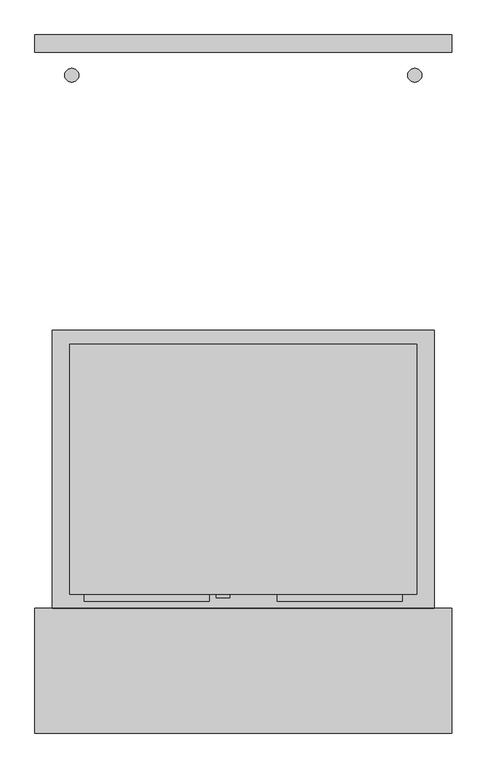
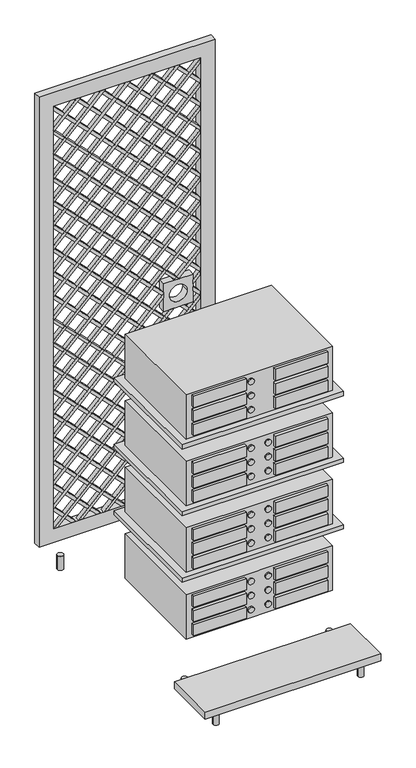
"""IFC4 building model written with IfcOpenShell, lengths in millimetres: furniture geometry, BIMHealth-Data_Acquisition_Cabinet_MRI-LOD2A-v1 : BIMHealth-Data_Acquisition_Cabinet_MRI-LOD2A-v1."""

from ifc_helpers import new_model, si_unit, point, frame, frame_2d, origin, origin_with_axes, place, context, project, spatial, polyline, circle_curve, trimmed, segment, composite_curve, outline, extrude, source, transform, mapped, element, save


def furniture_0908996f(model_context):
    return source(origin(), model_context, "Body", "SweptSolid", [
        extrude(outline(composite_curve([segment(trimmed(circle_curve(frame_2d((1052.3398364, -29.2292543)), 10.0), [point((1052.3398364, -39.2292543))], [point((1052.3398364, -19.2292543))], False, "CARTESIAN"), True, "CONTINUOUS"), segment(trimmed(circle_curve(frame_2d((1052.3398364, -29.2292543)), 10.0), [point((1052.3398364, -19.2292543))], [point((1052.3398364, -39.2292543))], False, "CARTESIAN"), True, "CONTINUOUS")], self_intersect=False)), frame((0.0, -385.0, 0.0), z_axis=(0.0, 1.0, 0.0), x_axis=(0.0, 0.0, 1.0)), (0.0, 0.0, 1.0), 5.0),
        extrude(outline(composite_curve([segment(trimmed(circle_curve(frame_2d((1001.3182848, -29.2292543)), 10.0), [point((1001.3182848, -39.2292543))], [point((1001.3182848, -19.2292543))], False, "CARTESIAN"), True, "CONTINUOUS"), segment(trimmed(circle_curve(frame_2d((1001.3182848, -29.2292543)), 10.0), [point((1001.3182848, -19.2292543))], [point((1001.3182848, -39.2292543))], False, "CARTESIAN"), True, "CONTINUOUS")], self_intersect=False)), frame((0.0, -385.0, 0.0), z_axis=(0.0, 1.0, 0.0), x_axis=(0.0, 0.0, 1.0)), (0.0, 0.0, 1.0), 5.0),
        extrude(outline(composite_curve([segment(trimmed(circle_curve(frame_2d((950.2967331, -29.2292543)), 10.0), [point((950.2967331, -39.2292543))], [point((950.2967331, -19.2292543))], False, "CARTESIAN"), True, "CONTINUOUS"), segment(trimmed(circle_curve(frame_2d((950.2967331, -29.2292543)), 10.0), [point((950.2967331, -19.2292543))], [point((950.2967331, -39.2292543))], False, "CARTESIAN"), True, "CONTINUOUS")], self_intersect=False)), frame((0.0, -385.0, 0.0), z_axis=(0.0, 1.0, 0.0), x_axis=(0.0, 0.0, 1.0)), (0.0, 0.0, 1.0), 5.0),
        extrude(outline(polyline([(-49.2292543, -390.0), (-229.2292543, -390.0), (-229.2292543, -380.0), (-49.2292543, -380.0), (-49.2292543, -390.0)])), frame((0.0, 0.0, 1032.3398364), z_axis=(0.0, 0.0, 1.0), x_axis=(1.0, 0.0, 0.0)), (0.0, 0.0, 1.0), 40.0),
        extrude(outline(polyline([(-49.2292543, -390.0), (-229.2292543, -390.0), (-229.2292543, -380.0), (-49.2292543, -380.0), (-49.2292543, -390.0)])), frame((0.0, 0.0, 981.3182848), z_axis=(0.0, 0.0, 1.0), x_axis=(1.0, 0.0, 0.0)), (0.0, 0.0, 1.0), 40.0),
        extrude(outline(polyline([(-49.2292543, -390.0), (-229.2292543, -390.0), (-229.2292543, -380.0), (-49.2292543, -380.0), (-49.2292543, -390.0)])), frame((0.0, 0.0, 930.2967331), z_axis=(0.0, 0.0, 1.0), x_axis=(1.0, 0.0, 0.0)), (0.0, 0.0, 1.0), 40.0),
        extrude(outline(polyline([(229.2292543, -390.0), (49.2292543, -390.0), (49.2292543, -380.0), (229.2292543, -380.0), (229.2292543, -390.0)])), frame((0.0, 0.0, 1032.3398364), z_axis=(0.0, 0.0, 1.0), x_axis=(1.0, 0.0, 0.0)), (0.0, 0.0, 1.0), 40.0),
        extrude(outline(polyline([(229.2292543, -390.0), (49.2292543, -390.0), (49.2292543, -380.0), (229.2292543, -380.0), (229.2292543, -390.0)])), frame((0.0, 0.0, 981.3182848), z_axis=(0.0, 0.0, 1.0), x_axis=(1.0, 0.0, 0.0)), (0.0, 0.0, 1.0), 40.0),
        extrude(outline(polyline([(229.2292543, -390.0), (49.2292543, -390.0), (49.2292543, -380.0), (229.2292543, -380.0), (229.2292543, -390.0)])), frame((0.0, 0.0, 930.2967331), z_axis=(0.0, 0.0, 1.0), x_axis=(1.0, 0.0, 0.0)), (0.0, 0.0, 1.0), 40.0),
        extrude(outline(polyline([(250.0, -20.0), (250.0, -380.0), (-250.0, -380.0), (-250.0, -20.0), (250.0, -20.0)])), frame((0.0, 0.0, 920.0), z_axis=(0.0, 0.0, 1.0), x_axis=(1.0, 0.0, 0.0)), (0.0, 0.0, 1.0), 160.0),
        extrude(outline(polyline([(275.0, 0.0), (275.0, -400.0), (-275.0, -400.0), (-275.0, 0.0), (275.0, 0.0)])), frame((0.0, 0.0, 905.0), z_axis=(0.0, 0.0, 1.0), x_axis=(1.0, 0.0, 0.0)), (0.0, 0.0, 1.0), 15.0),
        extrude(outline(composite_curve([segment(trimmed(circle_curve(frame_2d((812.3398364, 29.2292543)), 10.0), [point((812.3398364, 39.2292543))], [point((812.3398364, 19.2292543))], False, "CARTESIAN"), True, "CONTINUOUS"), segment(trimmed(circle_curve(frame_2d((812.3398364, 29.2292543)), 10.0), [point((812.3398364, 19.2292543))], [point((812.3398364, 39.2292543))], False, "CARTESIAN"), True, "CONTINUOUS")], self_intersect=False)), frame((0.0, -385.0, 0.0), z_axis=(0.0, 1.0, 0.0), x_axis=(0.0, 0.0, 1.0)), (0.0, 0.0, 1.0), 5.0),
        extrude(outline(composite_curve([segment(trimmed(circle_curve(frame_2d((761.3182848, 29.2292543)), 10.0), [point((761.3182848, 39.2292543))], [point((761.3182848, 19.2292543))], False, "CARTESIAN"), True, "CONTINUOUS"), segment(trimmed(circle_curve(frame_2d((761.3182848, 29.2292543)), 10.0), [point((761.3182848, 19.2292543))], [point((761.3182848, 39.2292543))], False, "CARTESIAN"), True, "CONTINUOUS")], self_intersect=False)), frame((0.0, -385.0, 0.0), z_axis=(0.0, 1.0, 0.0), x_axis=(0.0, 0.0, 1.0)), (0.0, 0.0, 1.0), 5.0),
        extrude(outline(composite_curve([segment(trimmed(circle_curve(frame_2d((710.2967331, 29.2292543)), 10.0), [point((710.2967331, 39.2292543))], [point((710.2967331, 19.2292543))], False, "CARTESIAN"), True, "CONTINUOUS"), segment(trimmed(circle_curve(frame_2d((710.2967331, 29.2292543)), 10.0), [point((710.2967331, 19.2292543))], [point((710.2967331, 39.2292543))], False, "CARTESIAN"), True, "CONTINUOUS")], self_intersect=False)), frame((0.0, -385.0, 0.0), z_axis=(0.0, 1.0, 0.0), x_axis=(0.0, 0.0, 1.0)), (0.0, 0.0, 1.0), 5.0),
        extrude(outline(composite_curve([segment(trimmed(circle_curve(frame_2d((812.3398364, -29.2292543)), 10.0), [point((812.3398364, -39.2292543))], [point((812.3398364, -19.2292543))], False, "CARTESIAN"), True, "CONTINUOUS"), segment(trimmed(circle_curve(frame_2d((812.3398364, -29.2292543)), 10.0), [point((812.3398364, -19.2292543))], [point((812.3398364, -39.2292543))], False, "CARTESIAN"), True, "CONTINUOUS")], self_intersect=False)), frame((0.0, -385.0, 0.0), z_axis=(0.0, 1.0, 0.0), x_axis=(0.0, 0.0, 1.0)), (0.0, 0.0, 1.0), 5.0),
        extrude(outline(composite_curve([segment(trimmed(circle_curve(frame_2d((761.3182848, -29.2292543)), 10.0), [point((761.3182848, -39.2292543))], [point((761.3182848, -19.2292543))], False, "CARTESIAN"), True, "CONTINUOUS"), segment(trimmed(circle_curve(frame_2d((761.3182848, -29.2292543)), 10.0), [point((761.3182848, -19.2292543))], [point((761.3182848, -39.2292543))], False, "CARTESIAN"), True, "CONTINUOUS")], self_intersect=False)), frame((0.0, -385.0, 0.0), z_axis=(0.0, 1.0, 0.0), x_axis=(0.0, 0.0, 1.0)), (0.0, 0.0, 1.0), 5.0),
        extrude(outline(composite_curve([segment(trimmed(circle_curve(frame_2d((710.2967331, -29.2292543)), 10.0), [point((710.2967331, -39.2292543))], [point((710.2967331, -19.2292543))], False, "CARTESIAN"), True, "CONTINUOUS"), segment(trimmed(circle_curve(frame_2d((710.2967331, -29.2292543)), 10.0), [point((710.2967331, -19.2292543))], [point((710.2967331, -39.2292543))], False, "CARTESIAN"), True, "CONTINUOUS")], self_intersect=False)), frame((0.0, -385.0, 0.0), z_axis=(0.0, 1.0, 0.0), x_axis=(0.0, 0.0, 1.0)), (0.0, 0.0, 1.0), 5.0),
        extrude(outline(polyline([(-49.2292543, -390.0), (-229.2292543, -390.0), (-229.2292543, -380.0), (-49.2292543, -380.0), (-49.2292543, -390.0)])), frame((0.0, 0.0, 792.3398364), z_axis=(0.0, 0.0, 1.0), x_axis=(1.0, 0.0, 0.0)), (0.0, 0.0, 1.0), 40.0),
        extrude(outline(polyline([(-49.2292543, -390.0), (-229.2292543, -390.0), (-229.2292543, -380.0), (-49.2292543, -380.0), (-49.2292543, -390.0)])), frame((0.0, 0.0, 741.3182848), z_axis=(0.0, 0.0, 1.0), x_axis=(1.0, 0.0, 0.0)), (0.0, 0.0, 1.0), 40.0),
        extrude(outline(polyline([(-49.2292543, -390.0), (-229.2292543, -390.0), (-229.2292543, -380.0), (-49.2292543, -380.0), (-49.2292543, -390.0)])), frame((0.0, 0.0, 690.2967331), z_axis=(0.0, 0.0, 1.0), x_axis=(1.0, 0.0, 0.0)), (0.0, 0.0, 1.0), 40.0),
        extrude(outline(polyline([(229.2292543, -390.0), (49.2292543, -390.0), (49.2292543, -380.0), (229.2292543, -380.0), (229.2292543, -390.0)])), frame((0.0, 0.0, 792.3398364), z_axis=(0.0, 0.0, 1.0), x_axis=(1.0, 0.0, 0.0)), (0.0, 0.0, 1.0), 40.0),
        extrude(outline(polyline([(229.2292543, -390.0), (49.2292543, -390.0), (49.2292543, -380.0), (229.2292543, -380.0), (229.2292543, -390.0)])), frame((0.0, 0.0, 741.3182848), z_axis=(0.0, 0.0, 1.0), x_axis=(1.0, 0.0, 0.0)), (0.0, 0.0, 1.0), 40.0),
        extrude(outline(polyline([(229.2292543, -390.0), (49.2292543, -390.0), (49.2292543, -380.0), (229.2292543, -380.0), (229.2292543, -390.0)])), frame((0.0, 0.0, 690.2967331), z_axis=(0.0, 0.0, 1.0), x_axis=(1.0, 0.0, 0.0)), (0.0, 0.0, 1.0), 40.0),
        extrude(outline(polyline([(250.0, -20.0), (250.0, -380.0), (-250.0, -380.0), (-250.0, -20.0), (250.0, -20.0)])), frame((0.0, 0.0, 680.0), z_axis=(0.0, 0.0, 1.0), x_axis=(1.0, 0.0, 0.0)), (0.0, 0.0, 1.0), 160.0),
        extrude(outline(polyline([(275.0, 0.0), (275.0, -400.0), (-275.0, -400.0), (-275.0, 0.0), (275.0, 0.0)])), frame((0.0, 0.0, 665.0), z_axis=(0.0, 0.0, 1.0), x_axis=(1.0, 0.0, 0.0)), (0.0, 0.0, 1.0), 15.0),
        extrude(outline(composite_curve([segment(trimmed(circle_curve(frame_2d((332.3398364, 29.2292543)), 10.0), [point((332.3398364, 39.2292543))], [point((332.3398364, 19.2292543))], False, "CARTESIAN"), True, "CONTINUOUS"), segment(trimmed(circle_curve(frame_2d((332.3398364, 29.2292543)), 10.0), [point((332.3398364, 19.2292543))], [point((332.3398364, 39.2292543))], False, "CARTESIAN"), True, "CONTINUOUS")], self_intersect=False)), frame((0.0, -385.0, 0.0), z_axis=(0.0, 1.0, 0.0), x_axis=(0.0, 0.0, 1.0)), (0.0, 0.0, 1.0), 5.0),
        extrude(outline(composite_curve([segment(trimmed(circle_curve(frame_2d((281.3182848, 29.2292543)), 10.0), [point((281.3182848, 39.2292543))], [point((281.3182848, 19.2292543))], False, "CARTESIAN"), True, "CONTINUOUS"), segment(trimmed(circle_curve(frame_2d((281.3182848, 29.2292543)), 10.0), [point((281.3182848, 19.2292543))], [point((281.3182848, 39.2292543))], False, "CARTESIAN"), True, "CONTINUOUS")], self_intersect=False)), frame((0.0, -385.0, 0.0), z_axis=(0.0, 1.0, 0.0), x_axis=(0.0, 0.0, 1.0)), (0.0, 0.0, 1.0), 5.0),
        extrude(outline(composite_curve([segment(trimmed(circle_curve(frame_2d((230.2967331, 29.2292543)), 10.0), [point((230.2967331, 39.2292543))], [point((230.2967331, 19.2292543))], False, "CARTESIAN"), True, "CONTINUOUS"), segment(trimmed(circle_curve(frame_2d((230.2967331, 29.2292543)), 10.0), [point((230.2967331, 19.2292543))], [point((230.2967331, 39.2292543))], False, "CARTESIAN"), True, "CONTINUOUS")], self_intersect=False)), frame((0.0, -385.0, 0.0), z_axis=(0.0, 1.0, 0.0), x_axis=(0.0, 0.0, 1.0)), (0.0, 0.0, 1.0), 5.0),
        extrude(outline(composite_curve([segment(trimmed(circle_curve(frame_2d((332.3398364, -29.2292543)), 10.0), [point((332.3398364, -39.2292543))], [point((332.3398364, -19.2292543))], False, "CARTESIAN"), True, "CONTINUOUS"), segment(trimmed(circle_curve(frame_2d((332.3398364, -29.2292543)), 10.0), [point((332.3398364, -19.2292543))], [point((332.3398364, -39.2292543))], False, "CARTESIAN"), True, "CONTINUOUS")], self_intersect=False)), frame((0.0, -385.0, 0.0), z_axis=(0.0, 1.0, 0.0), x_axis=(0.0, 0.0, 1.0)), (0.0, 0.0, 1.0), 5.0),
        extrude(outline(composite_curve([segment(trimmed(circle_curve(frame_2d((281.3182848, -29.2292543)), 10.0), [point((281.3182848, -39.2292543))], [point((281.3182848, -19.2292543))], False, "CARTESIAN"), True, "CONTINUOUS"), segment(trimmed(circle_curve(frame_2d((281.3182848, -29.2292543)), 10.0), [point((281.3182848, -19.2292543))], [point((281.3182848, -39.2292543))], False, "CARTESIAN"), True, "CONTINUOUS")], self_intersect=False)), frame((0.0, -385.0, 0.0), z_axis=(0.0, 1.0, 0.0), x_axis=(0.0, 0.0, 1.0)), (0.0, 0.0, 1.0), 5.0),
        extrude(outline(composite_curve([segment(trimmed(circle_curve(frame_2d((230.2967331, -29.2292543)), 10.0), [point((230.2967331, -39.2292543))], [point((230.2967331, -19.2292543))], False, "CARTESIAN"), True, "CONTINUOUS"), segment(trimmed(circle_curve(frame_2d((230.2967331, -29.2292543)), 10.0), [point((230.2967331, -19.2292543))], [point((230.2967331, -39.2292543))], False, "CARTESIAN"), True, "CONTINUOUS")], self_intersect=False)), frame((0.0, -385.0, 0.0), z_axis=(0.0, 1.0, 0.0), x_axis=(0.0, 0.0, 1.0)), (0.0, 0.0, 1.0), 5.0),
        extrude(outline(polyline([(-49.2292543, -390.0), (-229.2292543, -390.0), (-229.2292543, -380.0), (-49.2292543, -380.0), (-49.2292543, -390.0)])), frame((0.0, 0.0, 312.3398364), z_axis=(0.0, 0.0, 1.0), x_axis=(1.0, 0.0, 0.0)), (0.0, 0.0, 1.0), 40.0),
        extrude(outline(polyline([(-49.2292543, -390.0), (-229.2292543, -390.0), (-229.2292543, -380.0), (-49.2292543, -380.0), (-49.2292543, -390.0)])), frame((0.0, 0.0, 261.3182848), z_axis=(0.0, 0.0, 1.0), x_axis=(1.0, 0.0, 0.0)), (0.0, 0.0, 1.0), 40.0),
        extrude(outline(polyline([(-49.2292543, -390.0), (-229.2292543, -390.0), (-229.2292543, -380.0), (-49.2292543, -380.0), (-49.2292543, -390.0)])), frame((0.0, 0.0, 210.2967331), z_axis=(0.0, 0.0, 1.0), x_axis=(1.0, 0.0, 0.0)), (0.0, 0.0, 1.0), 40.0),
        extrude(outline(polyline([(229.2292543, -390.0), (49.2292543, -390.0), (49.2292543, -380.0), (229.2292543, -380.0), (229.2292543, -390.0)])), frame((0.0, 0.0, 312.3398364), z_axis=(0.0, 0.0, 1.0), x_axis=(1.0, 0.0, 0.0)), (0.0, 0.0, 1.0), 40.0),
        extrude(outline(polyline([(229.2292543, -390.0), (49.2292543, -390.0), (49.2292543, -380.0), (229.2292543, -380.0), (229.2292543, -390.0)])), frame((0.0, 0.0, 261.3182848), z_axis=(0.0, 0.0, 1.0), x_axis=(1.0, 0.0, 0.0)), (0.0, 0.0, 1.0), 40.0),
        extrude(outline(polyline([(229.2292543, -390.0), (49.2292543, -390.0), (49.2292543, -380.0), (229.2292543, -380.0), (229.2292543, -390.0)])), frame((0.0, 0.0, 210.2967331), z_axis=(0.0, 0.0, 1.0), x_axis=(1.0, 0.0, 0.0)), (0.0, 0.0, 1.0), 40.0),
        extrude(outline(polyline([(250.0, -20.0), (250.0, -380.0), (-250.0, -380.0), (-250.0, -20.0), (250.0, -20.0)])), frame((0.0, 0.0, 200.0), z_axis=(0.0, 0.0, 1.0), x_axis=(1.0, 0.0, 0.0)), (0.0, 0.0, 1.0), 160.0),
        extrude(outline(composite_curve([segment(trimmed(circle_curve(frame_2d((572.3398364, 29.2292543)), 10.0), [point((572.3398364, 39.2292543))], [point((572.3398364, 19.2292543))], False, "CARTESIAN"), True, "CONTINUOUS"), segment(trimmed(circle_curve(frame_2d((572.3398364, 29.2292543)), 10.0), [point((572.3398364, 19.2292543))], [point((572.3398364, 39.2292543))], False, "CARTESIAN"), True, "CONTINUOUS")], self_intersect=False)), frame((0.0, -385.0, 0.0), z_axis=(0.0, 1.0, 0.0), x_axis=(0.0, 0.0, 1.0)), (0.0, 0.0, 1.0), 5.0),
        extrude(outline(composite_curve([segment(trimmed(circle_curve(frame_2d((521.3182848, 29.2292543)), 10.0), [point((521.3182848, 39.2292543))], [point((521.3182848, 19.2292543))], False, "CARTESIAN"), True, "CONTINUOUS"), segment(trimmed(circle_curve(frame_2d((521.3182848, 29.2292543)), 10.0), [point((521.3182848, 19.2292543))], [point((521.3182848, 39.2292543))], False, "CARTESIAN"), True, "CONTINUOUS")], self_intersect=False)), frame((0.0, -385.0, 0.0), z_axis=(0.0, 1.0, 0.0), x_axis=(0.0, 0.0, 1.0)), (0.0, 0.0, 1.0), 5.0),
        extrude(outline(composite_curve([segment(trimmed(circle_curve(frame_2d((470.2967331, 29.2292543)), 10.0), [point((470.2967331, 39.2292543))], [point((470.2967331, 19.2292543))], False, "CARTESIAN"), True, "CONTINUOUS"), segment(trimmed(circle_curve(frame_2d((470.2967331, 29.2292543)), 10.0), [point((470.2967331, 19.2292543))], [point((470.2967331, 39.2292543))], False, "CARTESIAN"), True, "CONTINUOUS")], self_intersect=False)), frame((0.0, -385.0, 0.0), z_axis=(0.0, 1.0, 0.0), x_axis=(0.0, 0.0, 1.0)), (0.0, 0.0, 1.0), 5.0),
        extrude(outline(composite_curve([segment(trimmed(circle_curve(frame_2d((572.3398364, -29.2292543)), 10.0), [point((572.3398364, -39.2292543))], [point((572.3398364, -19.2292543))], False, "CARTESIAN"), True, "CONTINUOUS"), segment(trimmed(circle_curve(frame_2d((572.3398364, -29.2292543)), 10.0), [point((572.3398364, -19.2292543))], [point((572.3398364, -39.2292543))], False, "CARTESIAN"), True, "CONTINUOUS")], self_intersect=False)), frame((0.0, -385.0, 0.0), z_axis=(0.0, 1.0, 0.0), x_axis=(0.0, 0.0, 1.0)), (0.0, 0.0, 1.0), 5.0),
        extrude(outline(composite_curve([segment(trimmed(circle_curve(frame_2d((521.3182848, -29.2292543)), 10.0), [point((521.3182848, -39.2292543))], [point((521.3182848, -19.2292543))], False, "CARTESIAN"), True, "CONTINUOUS"), segment(trimmed(circle_curve(frame_2d((521.3182848, -29.2292543)), 10.0), [point((521.3182848, -19.2292543))], [point((521.3182848, -39.2292543))], False, "CARTESIAN"), True, "CONTINUOUS")], self_intersect=False)), frame((0.0, -385.0, 0.0), z_axis=(0.0, 1.0, 0.0), x_axis=(0.0, 0.0, 1.0)), (0.0, 0.0, 1.0), 5.0),
        extrude(outline(composite_curve([segment(trimmed(circle_curve(frame_2d((470.2967331, -29.2292543)), 10.0), [point((470.2967331, -39.2292543))], [point((470.2967331, -19.2292543))], False, "CARTESIAN"), True, "CONTINUOUS"), segment(trimmed(circle_curve(frame_2d((470.2967331, -29.2292543)), 10.0), [point((470.2967331, -19.2292543))], [point((470.2967331, -39.2292543))], False, "CARTESIAN"), True, "CONTINUOUS")], self_intersect=False)), frame((0.0, -385.0, 0.0), z_axis=(0.0, 1.0, 0.0), x_axis=(0.0, 0.0, 1.0)), (0.0, 0.0, 1.0), 5.0),
        extrude(outline(polyline([(-49.2292543, -390.0), (-229.2292543, -390.0), (-229.2292543, -380.0), (-49.2292543, -380.0), (-49.2292543, -390.0)])), frame((0.0, 0.0, 552.3398364), z_axis=(0.0, 0.0, 1.0), x_axis=(1.0, 0.0, 0.0)), (0.0, 0.0, 1.0), 40.0),
        extrude(outline(polyline([(-49.2292543, -390.0), (-229.2292543, -390.0), (-229.2292543, -380.0), (-49.2292543, -380.0), (-49.2292543, -390.0)])), frame((0.0, 0.0, 501.3182848), z_axis=(0.0, 0.0, 1.0), x_axis=(1.0, 0.0, 0.0)), (0.0, 0.0, 1.0), 40.0),
        extrude(outline(polyline([(-49.2292543, -390.0), (-229.2292543, -390.0), (-229.2292543, -380.0), (-49.2292543, -380.0), (-49.2292543, -390.0)])), frame((0.0, 0.0, 450.2967331), z_axis=(0.0, 0.0, 1.0), x_axis=(1.0, 0.0, 0.0)), (0.0, 0.0, 1.0), 40.0),
        extrude(outline(polyline([(229.2292543, -390.0), (49.2292543, -390.0), (49.2292543, -380.0), (229.2292543, -380.0), (229.2292543, -390.0)])), frame((0.0, 0.0, 552.3398364), z_axis=(0.0, 0.0, 1.0), x_axis=(1.0, 0.0, 0.0)), (0.0, 0.0, 1.0), 40.0),
        extrude(outline(polyline([(229.2292543, -390.0), (49.2292543, -390.0), (49.2292543, -380.0), (229.2292543, -380.0), (229.2292543, -390.0)])), frame((0.0, 0.0, 501.3182848), z_axis=(0.0, 0.0, 1.0), x_axis=(1.0, 0.0, 0.0)), (0.0, 0.0, 1.0), 40.0),
        extrude(outline(polyline([(229.2292543, -390.0), (49.2292543, -390.0), (49.2292543, -380.0), (229.2292543, -380.0), (229.2292543, -390.0)])), frame((0.0, 0.0, 450.2967331), z_axis=(0.0, 0.0, 1.0), x_axis=(1.0, 0.0, 0.0)), (0.0, 0.0, 1.0), 40.0),
        extrude(outline(polyline([(250.0, -20.0), (250.0, -380.0), (-250.0, -380.0), (-250.0, -20.0), (250.0, -20.0)])), frame((0.0, 0.0, 440.0), z_axis=(0.0, 0.0, 1.0), x_axis=(1.0, 0.0, 0.0)), (0.0, 0.0, 1.0), 160.0),
        extrude(outline(polyline([(275.0, 0.0), (275.0, -400.0), (-275.0, -400.0), (-275.0, 0.0), (275.0, 0.0)])), frame((0.0, 0.0, 425.0), z_axis=(0.0, 0.0, 1.0), x_axis=(1.0, 0.0, 0.0)), (0.0, 0.0, 1.0), 15.0),
        extrude(outline(composite_curve([segment(trimmed(circle_curve(frame_2d((246.9400805, -552.1873)), 10.0), [point((256.9400805, -552.1873))], [point((236.9400805, -552.1873))], False, "CARTESIAN"), True, "CONTINUOUS"), segment(trimmed(circle_curve(frame_2d((246.9400805, -552.1873)), 10.0), [point((236.9400805, -552.1873))], [point((256.9400805, -552.1873))], False, "CARTESIAN"), True, "CONTINUOUS")], self_intersect=False)), origin_with_axes(), (0.0, 0.0, 1.0), 50.0),
        extrude(outline(composite_curve([segment(trimmed(circle_curve(frame_2d((-246.9400805, -552.1873)), 10.0), [point((-256.9400805, -552.1873))], [point((-236.9400805, -552.1873))], False, "CARTESIAN"), True, "CONTINUOUS"), segment(trimmed(circle_curve(frame_2d((-246.9400805, -552.1873)), 10.0), [point((-236.9400805, -552.1873))], [point((-256.9400805, -552.1873))], False, "CARTESIAN"), True, "CONTINUOUS")], self_intersect=False)), origin_with_axes(), (0.0, 0.0, 1.0), 50.0),
        extrude(outline(polyline([(-300.0, -580.0), (-300.0, -400.0), (300.0, -400.0), (300.0, -580.0), (-300.0, -580.0)])), frame((0.0, 0.0, 50.0), z_axis=(0.0, 0.0, 1.0), x_axis=(1.0, 0.0, 0.0)), (0.0, 0.0, 1.0), 25.0),
        extrude(outline(composite_curve([segment(trimmed(circle_curve(frame_2d((246.9400805, -367.1873)), 10.0), [point((256.9400805, -367.1873))], [point((236.9400805, -367.1873))], False, "CARTESIAN"), True, "CONTINUOUS"), segment(trimmed(circle_curve(frame_2d((246.9400805, -367.1873)), 10.0), [point((236.9400805, -367.1873))], [point((256.9400805, -367.1873))], False, "CARTESIAN"), True, "CONTINUOUS")], self_intersect=False)), origin_with_axes(), (0.0, 0.0, 1.0), 50.0),
        extrude(outline(composite_curve([segment(trimmed(circle_curve(frame_2d((-246.9400805, -367.1873)), 10.0), [point((-256.9400805, -367.1873))], [point((-236.9400805, -367.1873))], False, "CARTESIAN"), True, "CONTINUOUS"), segment(trimmed(circle_curve(frame_2d((-246.9400805, -367.1873)), 10.0), [point((-236.9400805, -367.1873))], [point((-256.9400805, -367.1873))], False, "CARTESIAN"), True, "CONTINUOUS")], self_intersect=False)), origin_with_axes(), (0.0, 0.0, 1.0), 50.0),
        extrude(outline(composite_curve([segment(trimmed(circle_curve(frame_2d((246.9400805, 367.1873)), 10.0), [point((256.9400805, 367.1873))], [point((236.9400805, 367.1873))], False, "CARTESIAN"), True, "CONTINUOUS"), segment(trimmed(circle_curve(frame_2d((246.9400805, 367.1873)), 10.0), [point((236.9400805, 367.1873))], [point((256.9400805, 367.1873))], False, "CARTESIAN"), True, "CONTINUOUS")], self_intersect=False)), origin_with_axes(), (0.0, 0.0, 1.0), 50.0),
        extrude(outline(composite_curve([segment(trimmed(circle_curve(frame_2d((-246.9400805, 367.1873)), 10.0), [point((-256.9400805, 367.1873))], [point((-236.9400805, 367.1873))], False, "CARTESIAN"), True, "CONTINUOUS"), segment(trimmed(circle_curve(frame_2d((-246.9400805, 367.1873)), 10.0), [point((-236.9400805, 367.1873))], [point((-256.9400805, 367.1873))], False, "CARTESIAN"), True, "CONTINUOUS")], self_intersect=False)), origin_with_axes(), (0.0, 0.0, 1.0), 50.0),
        extrude(outline(polyline([(625.0, 250.0), (125.0, -250.0), (125.0, -235.8578644), (610.8578644, 250.0), (625.0, 250.0)])), frame((0.0, 400.0, 0.0), z_axis=(0.0, 1.0, 0.0), x_axis=(0.0, 0.0, 1.0)), (0.0, 0.0, 1.0), 15.0),
        extrude(outline(polyline([(540.1471863, 250.0), (125.0, -165.1471863), (125.0, -151.0050506), (526.0050506, 250.0), (540.1471863, 250.0)])), frame((0.0, 400.0, 0.0), z_axis=(0.0, 1.0, 0.0), x_axis=(0.0, 0.0, 1.0)), (0.0, 0.0, 1.0), 15.0),
        extrude(outline(polyline([(455.2943725, 250.0), (125.0, -80.2943725), (125.0, -66.1522369), (441.1522369, 250.0), (455.2943725, 250.0)])), frame((0.0, 400.0, 0.0), z_axis=(0.0, 1.0, 0.0), x_axis=(0.0, 0.0, 1.0)), (0.0, 0.0, 1.0), 15.0),
        extrude(outline(polyline([(370.4415588, 250.0), (125.0, 4.5584412), (125.0, 18.7005769), (356.2994231, 250.0), (370.4415588, 250.0)])), frame((0.0, 400.0, 0.0), z_axis=(0.0, 1.0, 0.0), x_axis=(0.0, 0.0, 1.0)), (0.0, 0.0, 1.0), 15.0),
        extrude(outline(polyline([(285.588745, 250.0), (125.0, 89.411255), (125.0, 103.5533906), (271.4466094, 250.0), (285.588745, 250.0)])), frame((0.0, 400.0, 0.0), z_axis=(0.0, 1.0, 0.0), x_axis=(0.0, 0.0, 1.0)), (0.0, 0.0, 1.0), 15.0),
        extrude(outline(polyline([(200.7359313, 250.0), (125.0, 174.2640687), (125.0, 188.4062043), (186.5937957, 250.0), (200.7359313, 250.0)])), frame((0.0, 400.0, 0.0), z_axis=(0.0, 1.0, 0.0), x_axis=(0.0, 0.0, 1.0)), (0.0, 0.0, 1.0), 15.0),
        extrude(outline(polyline([(695.7106781, 250.0), (709.8528137, 250.0), (209.8528137, -250.0), (195.7106781, -250.0), (695.7106781, 250.0)])), frame((0.0, 400.0, 0.0), z_axis=(0.0, 1.0, 0.0), x_axis=(0.0, 0.0, 1.0)), (0.0, 0.0, 1.0), 15.0),
        extrude(outline(polyline([(1035.1219331, 250.0), (1049.2640687, 250.0), (549.2640687, -250.0), (535.1219331, -250.0), (1035.1219331, 250.0)])), frame((0.0, 400.0, 0.0), z_axis=(0.0, 1.0, 0.0), x_axis=(0.0, 0.0, 1.0)), (0.0, 0.0, 1.0), 15.0),
        extrude(outline(polyline([(1119.9747468, 250.0), (1134.1168825, 250.0), (634.1168825, -250.0), (619.9747468, -250.0), (1119.9747468, 250.0)])), frame((0.0, 400.0, 0.0), z_axis=(0.0, 1.0, 0.0), x_axis=(0.0, 0.0, 1.0)), (0.0, 0.0, 1.0), 15.0),
        extrude(outline(polyline([(1204.8275606, 250.0), (1218.9696962, 250.0), (718.9696962, -250.0), (704.8275606, -250.0), (1204.8275606, 250.0)])), frame((0.0, 400.0, 0.0), z_axis=(0.0, 1.0, 0.0), x_axis=(0.0, 0.0, 1.0)), (0.0, 0.0, 1.0), 15.0),
        extrude(outline(polyline([(1289.6803743, 250.0), (1303.8225099, 250.0), (803.8225099, -250.0), (789.6803743, -250.0), (1289.6803743, 250.0)])), frame((0.0, 400.0, 0.0), z_axis=(0.0, 1.0, 0.0), x_axis=(0.0, 0.0, 1.0)), (0.0, 0.0, 1.0), 15.0),
        extrude(outline(polyline([(1374.5331881, 250.0), (1388.6753237, 250.0), (888.6753237, -250.0), (874.5331881, -250.0), (1374.5331881, 250.0)])), frame((0.0, 400.0, 0.0), z_axis=(0.0, 1.0, 0.0), x_axis=(0.0, 0.0, 1.0)), (0.0, 0.0, 1.0), 15.0),
        extrude(outline(polyline([(1459.3860018, 250.0), (1473.5281374, 250.0), (973.5281374, -250.0), (959.3860018, -250.0), (1459.3860018, 250.0)])), frame((0.0, 400.0, 0.0), z_axis=(0.0, 1.0, 0.0), x_axis=(0.0, 0.0, 1.0)), (0.0, 0.0, 1.0), 15.0),
        extrude(outline(polyline([(1544.2388155, 250.0), (1558.3809512, 250.0), (1058.3809512, -250.0), (1044.2388155, -250.0), (1544.2388155, 250.0)])), frame((0.0, 400.0, 0.0), z_axis=(0.0, 1.0, 0.0), x_axis=(0.0, 0.0, 1.0)), (0.0, 0.0, 1.0), 15.0),
        extrude(outline(polyline([(1629.0916293, 250.0), (1643.2337649, 250.0), (1143.2337649, -250.0), (1129.0916293, -250.0), (1629.0916293, 250.0)])), frame((0.0, 400.0, 0.0), z_axis=(0.0, 1.0, 0.0), x_axis=(0.0, 0.0, 1.0)), (0.0, 0.0, 1.0), 15.0),
        extrude(outline(polyline([(1645.0, 181.055557), (1645.0, 166.9134213), (1228.0865787, -250.0), (1213.944443, -250.0), (1645.0, 181.055557)])), frame((0.0, 400.0, 0.0), z_axis=(0.0, 1.0, 0.0), x_axis=(0.0, 0.0, 1.0)), (0.0, 0.0, 1.0), 15.0),
        extrude(outline(polyline([(1645.0, 96.2027432), (1645.0, 82.0606076), (1312.9393924, -250.0), (1298.7972568, -250.0), (1645.0, 96.2027432)])), frame((0.0, 400.0, 0.0), z_axis=(0.0, 1.0, 0.0), x_axis=(0.0, 0.0, 1.0)), (0.0, 0.0, 1.0), 15.0),
        extrude(outline(polyline([(1645.0, 11.3499295), (1645.0, -2.7922061), (1397.7922061, -250.0), (1383.6500705, -250.0), (1645.0, 11.3499295)])), frame((0.0, 400.0, 0.0), z_axis=(0.0, 1.0, 0.0), x_axis=(0.0, 0.0, 1.0)), (0.0, 0.0, 1.0), 15.0),
        extrude(outline(polyline([(294.7056275, -250.0), (280.5634919, -250.0), (780.5634919, 250.0), (794.7056275, 250.0), (294.7056275, -250.0)])), frame((0.0, 400.0, 0.0), z_axis=(0.0, 1.0, 0.0), x_axis=(0.0, 0.0, 1.0)), (0.0, 0.0, 1.0), 15.0),
        extrude(outline(polyline([(379.5584412, -250.0), (365.4163056, -250.0), (775.0, 159.5836944), (775.0, 145.4415588), (379.5584412, -250.0)])), frame((0.0, 400.0, 0.0), z_axis=(0.0, 1.0, 0.0), x_axis=(0.0, 0.0, 1.0)), (0.0, 0.0, 1.0), 15.0),
        extrude(outline(polyline([(865.4163056, 250.0), (879.5584412, 250.0), (854.5584412, 225.0), (840.4163056, 225.0), (865.4163056, 250.0)])), frame((0.0, 400.0, 0.0), z_axis=(0.0, 1.0, 0.0), x_axis=(0.0, 0.0, 1.0)), (0.0, 0.0, 1.0), 15.0),
        extrude(outline(polyline([(464.411255, -250.0), (450.2691193, -250.0), (825.2691193, 125.0), (839.411255, 125.0), (464.411255, -250.0)])), frame((0.0, 400.0, 0.0), z_axis=(0.0, 1.0, 0.0), x_axis=(0.0, 0.0, 1.0)), (0.0, 0.0, 1.0), 15.0),
        extrude(outline(polyline([(950.2691193, 250.0), (964.411255, 250.0), (875.0, 160.588745), (875.0, 174.7308807), (950.2691193, 250.0)])), frame((0.0, 400.0, 0.0), z_axis=(0.0, 1.0, 0.0), x_axis=(0.0, 0.0, 1.0)), (0.0, 0.0, 1.0), 15.0),
        extrude(outline(polyline([(1645.0, -73.5028843), (1645.0, -87.6450199), (1482.6450199, -250.0), (1468.5028843, -250.0), (1645.0, -73.5028843)])), frame((0.0, 400.0, 0.0), z_axis=(0.0, 1.0, 0.0), x_axis=(0.0, 0.0, 1.0)), (0.0, 0.0, 1.0), 15.0),
        extrude(outline(polyline([(1645.0, -158.355698), (1645.0, -172.4978336), (1567.4978336, -250.0), (1553.355698, -250.0), (1645.0, -158.355698)])), frame((0.0, 400.0, 0.0), z_axis=(0.0, 1.0, 0.0), x_axis=(0.0, 0.0, 1.0)), (0.0, 0.0, 1.0), 15.0),
        extrude(outline(polyline([(625.0, -250.0), (610.8578644, -250.0), (125.0, 235.8578644), (125.0, 250.0), (625.0, -250.0)])), frame((0.0, 400.0, 0.0), z_axis=(0.0, 1.0, 0.0), x_axis=(0.0, 0.0, 1.0)), (0.0, 0.0, 1.0), 15.0),
        extrude(outline(polyline([(540.1471863, -250.0), (526.0050506, -250.0), (125.0, 151.0050506), (125.0, 165.1471863), (540.1471863, -250.0)])), frame((0.0, 400.0, 0.0), z_axis=(0.0, 1.0, 0.0), x_axis=(0.0, 0.0, 1.0)), (0.0, 0.0, 1.0), 15.0),
        extrude(outline(polyline([(455.2943725, -250.0), (441.1522369, -250.0), (125.0, 66.1522369), (125.0, 80.2943725), (455.2943725, -250.0)])), frame((0.0, 400.0, 0.0), z_axis=(0.0, 1.0, 0.0), x_axis=(0.0, 0.0, 1.0)), (0.0, 0.0, 1.0), 15.0),
        extrude(outline(polyline([(370.4415588, -250.0), (356.2994231, -250.0), (125.0, -18.7005769), (125.0, -4.5584412), (370.4415588, -250.0)])), frame((0.0, 400.0, 0.0), z_axis=(0.0, 1.0, 0.0), x_axis=(0.0, 0.0, 1.0)), (0.0, 0.0, 1.0), 15.0),
        extrude(outline(polyline([(285.588745, -250.0), (271.4466094, -250.0), (125.0, -103.5533906), (125.0, -89.411255), (285.588745, -250.0)])), frame((0.0, 400.0, 0.0), z_axis=(0.0, 1.0, 0.0), x_axis=(0.0, 0.0, 1.0)), (0.0, 0.0, 1.0), 15.0),
        extrude(outline(polyline([(200.7359313, -250.0), (186.5937957, -250.0), (125.0, -188.4062043), (125.0, -174.2640687), (200.7359313, -250.0)])), frame((0.0, 400.0, 0.0), z_axis=(0.0, 1.0, 0.0), x_axis=(0.0, 0.0, 1.0)), (0.0, 0.0, 1.0), 15.0),
        extrude(outline(polyline([(695.7106781, -250.0), (195.7106781, 250.0), (209.8528137, 250.0), (709.8528137, -250.0), (695.7106781, -250.0)])), frame((0.0, 400.0, 0.0), z_axis=(0.0, 1.0, 0.0), x_axis=(0.0, 0.0, 1.0)), (0.0, 0.0, 1.0), 15.0),
        extrude(outline(polyline([(294.7056275, 250.0), (794.7056275, -250.0), (780.5634919, -250.0), (280.5634919, 250.0), (294.7056275, 250.0)])), frame((0.0, 400.0, 0.0), z_axis=(0.0, 1.0, 0.0), x_axis=(0.0, 0.0, 1.0)), (0.0, 0.0, 1.0), 15.0),
        extrude(outline(polyline([(379.5584412, 250.0), (879.5584412, -250.0), (865.4163056, -250.0), (365.4163056, 250.0), (379.5584412, 250.0)])), frame((0.0, 400.0, 0.0), z_axis=(0.0, 1.0, 0.0), x_axis=(0.0, 0.0, 1.0)), (0.0, 0.0, 1.0), 15.0),
        extrude(outline(polyline([(464.411255, 250.0), (964.411255, -250.0), (950.2691193, -250.0), (450.2691193, 250.0), (464.411255, 250.0)])), frame((0.0, 400.0, 0.0), z_axis=(0.0, 1.0, 0.0), x_axis=(0.0, 0.0, 1.0)), (0.0, 0.0, 1.0), 15.0),
        extrude(outline(polyline([(1035.1219331, -250.0), (535.1219331, 250.0), (549.2640687, 250.0), (1049.2640687, -250.0), (1035.1219331, -250.0)])), frame((0.0, 400.0, 0.0), z_axis=(0.0, 1.0, 0.0), x_axis=(0.0, 0.0, 1.0)), (0.0, 0.0, 1.0), 15.0),
        extrude(outline(polyline([(1119.9747468, -250.0), (619.9747468, 250.0), (634.1168825, 250.0), (1134.1168825, -250.0), (1119.9747468, -250.0)])), frame((0.0, 400.0, 0.0), z_axis=(0.0, 1.0, 0.0), x_axis=(0.0, 0.0, 1.0)), (0.0, 0.0, 1.0), 15.0),
        extrude(outline(polyline([(1204.8275606, -250.0), (829.8275606, 125.0), (843.9696962, 125.0), (1218.9696962, -250.0), (1204.8275606, -250.0)])), frame((0.0, 400.0, 0.0), z_axis=(0.0, 1.0, 0.0), x_axis=(0.0, 0.0, 1.0)), (0.0, 0.0, 1.0), 15.0),
        extrude(outline(polyline([(1289.6803743, -250.0), (875.0, 164.6803743), (875.0, 178.8225099), (1303.8225099, -250.0), (1289.6803743, -250.0)])), frame((0.0, 400.0, 0.0), z_axis=(0.0, 1.0, 0.0), x_axis=(0.0, 0.0, 1.0)), (0.0, 0.0, 1.0), 15.0),
        extrude(outline(polyline([(1645.0, -181.055557), (1213.944443, 250.0), (1228.0865787, 250.0), (1645.0, -166.9134213), (1645.0, -181.055557)])), frame((0.0, 400.0, 0.0), z_axis=(0.0, 1.0, 0.0), x_axis=(0.0, 0.0, 1.0)), (0.0, 0.0, 1.0), 15.0),
        extrude(outline(polyline([(1645.0, -96.2027432), (1298.7972568, 250.0), (1312.9393924, 250.0), (1645.0, -82.0606076), (1645.0, -96.2027432)])), frame((0.0, 400.0, 0.0), z_axis=(0.0, 1.0, 0.0), x_axis=(0.0, 0.0, 1.0)), (0.0, 0.0, 1.0), 15.0),
        extrude(outline(polyline([(1645.0, -11.3499295), (1383.6500705, 250.0), (1397.7922061, 250.0), (1645.0, 2.7922061), (1645.0, -11.3499295)])), frame((0.0, 400.0, 0.0), z_axis=(0.0, 1.0, 0.0), x_axis=(0.0, 0.0, 1.0)), (0.0, 0.0, 1.0), 15.0),
        extrude(outline(polyline([(803.8225099, 250.0), (828.8225099, 225.0), (814.6803743, 225.0), (789.6803743, 250.0), (803.8225099, 250.0)])), frame((0.0, 400.0, 0.0), z_axis=(0.0, 1.0, 0.0), x_axis=(0.0, 0.0, 1.0)), (0.0, 0.0, 1.0), 15.0),
        extrude(outline(polyline([(718.9696962, 250.0), (775.0, 193.9696962), (775.0, 179.8275606), (704.8275606, 250.0), (718.9696962, 250.0)])), frame((0.0, 400.0, 0.0), z_axis=(0.0, 1.0, 0.0), x_axis=(0.0, 0.0, 1.0)), (0.0, 0.0, 1.0), 15.0),
        extrude(outline(polyline([(1374.5331881, -250.0), (874.5331881, 250.0), (888.6753237, 250.0), (1388.6753237, -250.0), (1374.5331881, -250.0)])), frame((0.0, 400.0, 0.0), z_axis=(0.0, 1.0, 0.0), x_axis=(0.0, 0.0, 1.0)), (0.0, 0.0, 1.0), 15.0),
        extrude(outline(polyline([(1459.3860018, -250.0), (959.3860018, 250.0), (973.5281374, 250.0), (1473.5281374, -250.0), (1459.3860018, -250.0)])), frame((0.0, 400.0, 0.0), z_axis=(0.0, 1.0, 0.0), x_axis=(0.0, 0.0, 1.0)), (0.0, 0.0, 1.0), 15.0),
        extrude(outline(polyline([(1544.2388155, -250.0), (1044.2388155, 250.0), (1058.3809512, 250.0), (1558.3809512, -250.0), (1544.2388155, -250.0)])), frame((0.0, 400.0, 0.0), z_axis=(0.0, 1.0, 0.0), x_axis=(0.0, 0.0, 1.0)), (0.0, 0.0, 1.0), 15.0),
        extrude(outline(polyline([(1629.0916293, -250.0), (1129.0916293, 250.0), (1143.2337649, 250.0), (1643.2337649, -250.0), (1629.0916293, -250.0)])), frame((0.0, 400.0, 0.0), z_axis=(0.0, 1.0, 0.0), x_axis=(0.0, 0.0, 1.0)), (0.0, 0.0, 1.0), 15.0),
        extrude(outline(polyline([(1645.0, 73.5028843), (1468.5028843, 250.0), (1482.6450199, 250.0), (1645.0, 87.6450199), (1645.0, 73.5028843)])), frame((0.0, 400.0, 0.0), z_axis=(0.0, 1.0, 0.0), x_axis=(0.0, 0.0, 1.0)), (0.0, 0.0, 1.0), 15.0),
        extrude(outline(polyline([(1645.0, 158.355698), (1553.355698, 250.0), (1567.4978336, 250.0), (1645.0, 172.4978336), (1645.0, 158.355698)])), frame((0.0, 400.0, 0.0), z_axis=(0.0, 1.0, 0.0), x_axis=(0.0, 0.0, 1.0)), (0.0, 0.0, 1.0), 15.0),
        extrude(outline(polyline([(75.0, -300.0), (75.0, 300.0), (1695.0, 300.0), (1695.0, -300.0), (75.0, -300.0)]), holes=[polyline([(1645.0, 250.0), (125.0, 250.0), (125.0, -250.0), (1645.0, -250.0), (1645.0, 250.0)])]), frame((0.0, 400.0, 0.0), z_axis=(0.0, 1.0, 0.0), x_axis=(0.0, 0.0, 1.0)), (0.0, 0.0, 1.0), 25.0),
        extrude(outline(polyline([(875.0, 125.0), (775.0, 125.0), (775.0, 225.0), (875.0, 225.0), (875.0, 125.0)]), holes=[composite_curve([segment(trimmed(circle_curve(frame_2d((825.0, 175.0)), 30.0), [point((825.0, 145.0))], [point((825.0, 205.0))], True, "CARTESIAN"), True, "CONTINUOUS"), segment(trimmed(circle_curve(frame_2d((825.0, 175.0)), 30.0), [point((825.0, 205.0))], [point((825.0, 145.0))], True, "CARTESIAN"), True, "CONTINUOUS")], self_intersect=False)]), frame((0.0, 400.0, 0.0), z_axis=(0.0, 1.0, 0.0), x_axis=(0.0, 0.0, 1.0)), (0.0, 0.0, 1.0), 25.0),
    ])


if __name__ == "__main__":
    model = new_model("IFC4")
    model_context = context("Model", 3, world=origin())
    ifc_project = project(units=[si_unit("LENGTHUNIT", "METRE", prefix="MILLI")], contexts=[model_context])
    site = spatial("IfcSite", under=ifc_project)
    building = spatial("IfcBuilding", under=site)
    placement = place(None, origin())
    furniture_shape = furniture_0908996f(model_context)
    element("IfcFurniture", 1, ObjectType="BIMHealth-Data_Acquisition_Cabinet_MRI-LOD2A-v1 : BIMHealth-Data_Acquisition_Cabinet_MRI-LOD2A-v1", at=placement, inside=building, context=model_context, shape_type="MappedRepresentation", body=[
        mapped(furniture_shape, transform((0.0, 0.0, 0.0), x_axis=(1.0, 0.0, 0.0), y_axis=(0.0, 1.0, 0.0), z_axis=(0.0, 0.0, 1.0))),
    ])
    save(model, "model.ifc")
